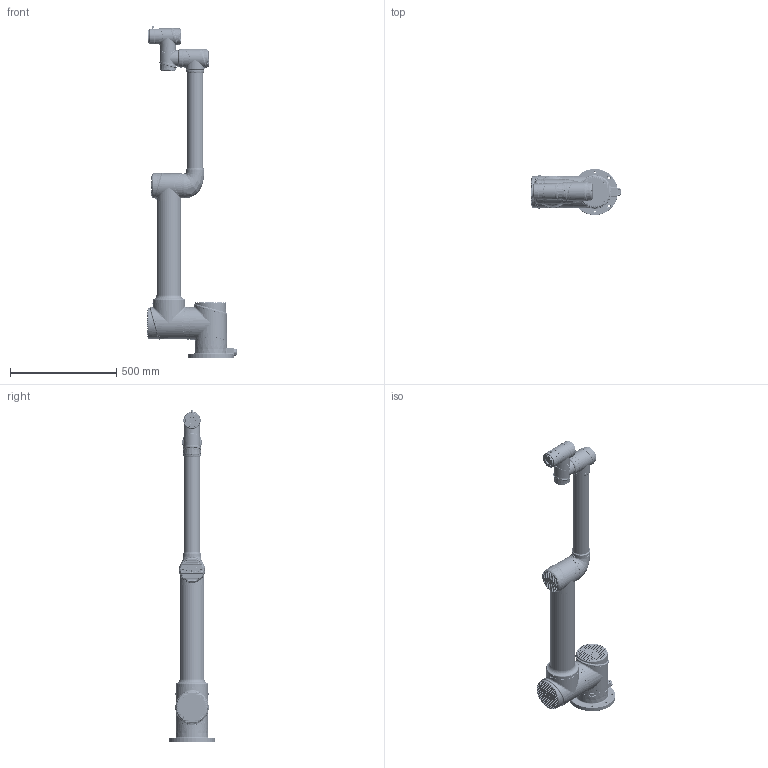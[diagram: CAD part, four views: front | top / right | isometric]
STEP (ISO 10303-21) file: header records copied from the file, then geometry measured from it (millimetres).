
FILE_DESCRIPTION (( 'STEP AP214' ), '1' );
FILE_NAME ('i10-Robot_Assembly.step', '2021-05-14T10:29:35', ( '' ), ( '' ), 'SwSTEP 2.0', 'SolidWorks 2020', '' );
FILE_SCHEMA (( 'AUTOMOTIVE_DESIGN' ));
Length unit declared in the file: millimetre
Products named in the file (11): i10-菁釱; M32; i10-Robot_Assembly; M14; M25; i10-14-17蛌諉啣; M17; i10-湮旋奪; i10-藺傷郪璃; i10-俔芛; i10-苤旋奪
Assembly tree (12 placements, depth 2):
  i10-Robot_Assembly
    i10-菁釱
    M32  x2
    i10-湮旋奪
    M25
    i10-俔芛
    M17
    i10-14-17蛌諉啣
    M14  x2
    i10-藺傷郪璃
    i10-苤旋奪
Bounding box: 419.8 x 217.97 x 1562.4 mm (x, y, z)
Volume: 22252363.7 mm3; surface area: 1225569 mm2
Topology: 36 solids, 61 shells, 6773 faces, 16563 edges, 10429 vertices
Faces by surface type: plane 2502, cylinder 2310, bspline 998, cone 641, torus 292, sphere 30
Entity records: 215657 total; most frequent: CARTESIAN_POINT 91354, ORIENTED_EDGE 24858, DIRECTION 23874, EDGE_CURVE 12429, AXIS2_PLACEMENT_3D 9234, VERTEX_POINT 7884, EDGE_LOOP 5715, LINE 5406
